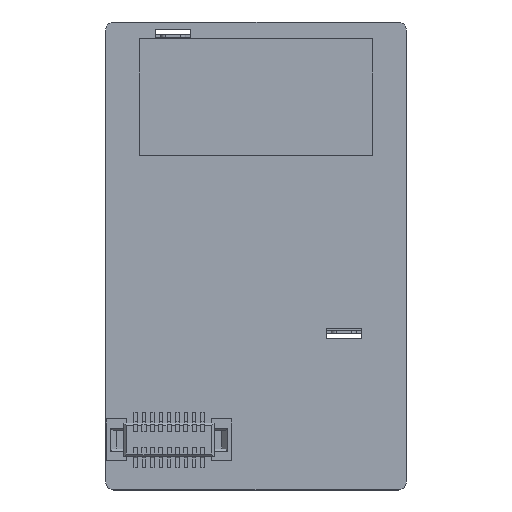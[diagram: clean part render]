
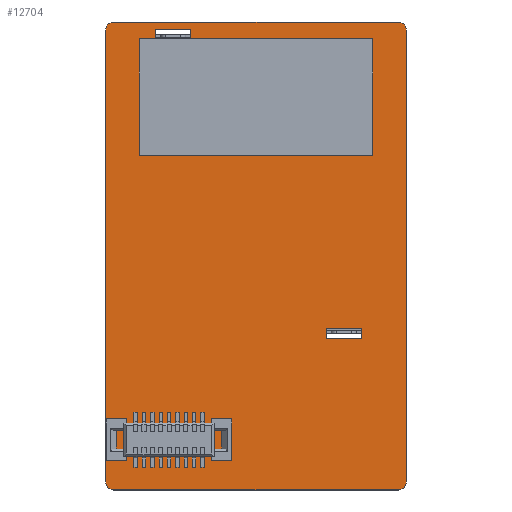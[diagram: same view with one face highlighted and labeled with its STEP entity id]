
A CAD part, top view. The second image highlights one B-rep face of the part: STEP entity #12704.
In plain terms, the highlighted planar face has unit normal (0, 0, 1) as drawn and (0, -1, 0) by its records, which use the part's own axes.
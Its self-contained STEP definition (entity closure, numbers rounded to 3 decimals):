
#12397=CARTESIAN_POINT('',(-8.5,0.,17.5));
#12398=DIRECTION('',(0.,-1.,0.));
#12399=DIRECTION('',(0.,0.,1.));
#12400=AXIS2_PLACEMENT_3D('',#12397,#12398,#12399);
#12402=DIRECTION('',(1.,0.,0.));
#12403=VECTOR('',#12402,17.);
#12404=CARTESIAN_POINT('',(-8.5,0.,18.));
#12405=LINE('',#12404,#12403);
#12406=CARTESIAN_POINT('',(8.5,0.,17.5));
#12407=DIRECTION('',(0.,-1.,0.));
#12408=DIRECTION('',(1.,0.,0.));
#12409=AXIS2_PLACEMENT_3D('',#12406,#12407,#12408);
#12411=DIRECTION('',(0.,0.,-1.));
#12412=VECTOR('',#12411,27.);
#12413=CARTESIAN_POINT('',(9.,0.,17.5));
#12414=LINE('',#12413,#12412);
#12415=CARTESIAN_POINT('',(8.5,0.,-9.5));
#12416=DIRECTION('',(0.,-1.,0.));
#12417=DIRECTION('',(0.,0.,-1.));
#12418=AXIS2_PLACEMENT_3D('',#12415,#12416,#12417);
#12420=DIRECTION('',(-1.,0.,0.));
#12421=VECTOR('',#12420,17.);
#12422=CARTESIAN_POINT('',(8.5,0.,-10.));
#12423=LINE('',#12422,#12421);
#12424=CARTESIAN_POINT('',(-8.5,0.,-9.5));
#12425=DIRECTION('',(0.,-1.,0.));
#12426=DIRECTION('',(-1.,0.,0.));
#12427=AXIS2_PLACEMENT_3D('',#12424,#12425,#12426);
#12429=DIRECTION('',(0.,0.,1.));
#12430=VECTOR('',#12429,27.);
#12431=CARTESIAN_POINT('',(-9.,0.,-9.5));
#12432=LINE('',#12431,#12430);
#12433=DIRECTION('',(-1.,0.,0.));
#12434=VECTOR('',#12433,2.1);
#12435=CARTESIAN_POINT('',(-3.9,0.,16.95));
#12436=LINE('',#12435,#12434);
#12437=DIRECTION('',(0.,0.,-1.));
#12438=VECTOR('',#12437,0.6);
#12439=CARTESIAN_POINT('',(-3.9,0.,17.55));
#12440=LINE('',#12439,#12438);
#12441=DIRECTION('',(1.,0.,0.));
#12442=VECTOR('',#12441,2.1);
#12443=CARTESIAN_POINT('',(-6.,0.,17.55));
#12444=LINE('',#12443,#12442);
#12445=DIRECTION('',(0.,0.,1.));
#12446=VECTOR('',#12445,0.6);
#12447=CARTESIAN_POINT('',(-6.,0.,16.95));
#12448=LINE('',#12447,#12446);
#12449=DIRECTION('',(0.,0.,-1.));
#12450=VECTOR('',#12449,0.6);
#12451=CARTESIAN_POINT('',(6.3,0.,-0.35));
#12452=LINE('',#12451,#12450);
#12453=DIRECTION('',(1.,0.,0.));
#12454=VECTOR('',#12453,2.1);
#12455=CARTESIAN_POINT('',(4.2,0.,-0.35));
#12456=LINE('',#12455,#12454);
#12457=DIRECTION('',(0.,0.,1.));
#12458=VECTOR('',#12457,0.6);
#12459=CARTESIAN_POINT('',(4.2,0.,-0.95));
#12460=LINE('',#12459,#12458);
#12461=DIRECTION('',(-1.,0.,0.));
#12462=VECTOR('',#12461,2.1);
#12463=CARTESIAN_POINT('',(6.3,0.,-0.95));
#12464=LINE('',#12463,#12462);
#12597=CARTESIAN_POINT('',(-8.5,0.,18.));
#12598=CARTESIAN_POINT('',(-9.,0.,17.5));
#12599=VERTEX_POINT('',#12597);
#12600=VERTEX_POINT('',#12598);
#12605=CARTESIAN_POINT('',(9.,0.,17.5));
#12606=CARTESIAN_POINT('',(8.5,0.,18.));
#12607=VERTEX_POINT('',#12605);
#12608=VERTEX_POINT('',#12606);
#12613=CARTESIAN_POINT('',(8.5,0.,-10.));
#12614=CARTESIAN_POINT('',(9.,0.,-9.5));
#12615=VERTEX_POINT('',#12613);
#12616=VERTEX_POINT('',#12614);
#12621=CARTESIAN_POINT('',(-9.,0.,-9.5));
#12622=CARTESIAN_POINT('',(-8.5,0.,-10.));
#12623=VERTEX_POINT('',#12621);
#12624=VERTEX_POINT('',#12622);
#12629=CARTESIAN_POINT('',(-3.9,0.,16.95));
#12630=CARTESIAN_POINT('',(-6.,0.,16.95));
#12631=VERTEX_POINT('',#12629);
#12632=VERTEX_POINT('',#12630);
#12633=CARTESIAN_POINT('',(-6.,0.,17.55));
#12634=VERTEX_POINT('',#12633);
#12635=CARTESIAN_POINT('',(-3.9,0.,17.55));
#12636=VERTEX_POINT('',#12635);
#12637=CARTESIAN_POINT('',(6.3,0.,-0.35));
#12638=CARTESIAN_POINT('',(6.3,0.,-0.95));
#12639=VERTEX_POINT('',#12637);
#12640=VERTEX_POINT('',#12638);
#12641=CARTESIAN_POINT('',(4.2,0.,-0.95));
#12642=VERTEX_POINT('',#12641);
#12643=CARTESIAN_POINT('',(4.2,0.,-0.35));
#12644=VERTEX_POINT('',#12643);
#12661=CARTESIAN_POINT('',(0.,0.,0.));
#12662=DIRECTION('',(0.,1.,0.));
#12663=DIRECTION('',(1.,0.,0.));
#12664=AXIS2_PLACEMENT_3D('',#12661,#12662,#12663);
#12665=PLANE('',#12664);
#12667=ORIENTED_EDGE('',*,*,#12666,.F.);
#12669=ORIENTED_EDGE('',*,*,#12668,.T.);
#12671=ORIENTED_EDGE('',*,*,#12670,.F.);
#12673=ORIENTED_EDGE('',*,*,#12672,.T.);
#12675=ORIENTED_EDGE('',*,*,#12674,.F.);
#12677=ORIENTED_EDGE('',*,*,#12676,.T.);
#12679=ORIENTED_EDGE('',*,*,#12678,.F.);
#12681=ORIENTED_EDGE('',*,*,#12680,.T.);
#12682=EDGE_LOOP('',(#12667,#12669,#12671,#12673,#12675,#12677,#12679,#12681));
#12683=FACE_OUTER_BOUND('',#12682,.F.);
#12685=ORIENTED_EDGE('',*,*,#12684,.F.);
#12687=ORIENTED_EDGE('',*,*,#12686,.F.);
#12689=ORIENTED_EDGE('',*,*,#12688,.F.);
#12691=ORIENTED_EDGE('',*,*,#12690,.F.);
#12692=EDGE_LOOP('',(#12685,#12687,#12689,#12691));
#12693=FACE_BOUND('',#12692,.F.);
#12695=ORIENTED_EDGE('',*,*,#12694,.F.);
#12697=ORIENTED_EDGE('',*,*,#12696,.F.);
#12699=ORIENTED_EDGE('',*,*,#12698,.F.);
#12701=ORIENTED_EDGE('',*,*,#12700,.F.);
#12702=EDGE_LOOP('',(#12695,#12697,#12699,#12701));
#12703=FACE_BOUND('',#12702,.F.);
#12704=ADVANCED_FACE('',(#12683,#12693,#12703),#12665,.F.);
#12401=CIRCLE('',#12400,0.5);
#12410=CIRCLE('',#12409,0.5);
#12419=CIRCLE('',#12418,0.5);
#12428=CIRCLE('',#12427,0.5);
#12666=EDGE_CURVE('',#12599,#12600,#12401,.T.);
#12668=EDGE_CURVE('',#12599,#12608,#12405,.T.);
#12670=EDGE_CURVE('',#12607,#12608,#12410,.T.);
#12672=EDGE_CURVE('',#12607,#12616,#12414,.T.);
#12674=EDGE_CURVE('',#12615,#12616,#12419,.T.);
#12676=EDGE_CURVE('',#12615,#12624,#12423,.T.);
#12678=EDGE_CURVE('',#12623,#12624,#12428,.T.);
#12680=EDGE_CURVE('',#12623,#12600,#12432,.T.);
#12684=EDGE_CURVE('',#12631,#12632,#12436,.T.);
#12686=EDGE_CURVE('',#12636,#12631,#12440,.T.);
#12688=EDGE_CURVE('',#12634,#12636,#12444,.T.);
#12690=EDGE_CURVE('',#12632,#12634,#12448,.T.);
#12694=EDGE_CURVE('',#12639,#12640,#12452,.T.);
#12696=EDGE_CURVE('',#12644,#12639,#12456,.T.);
#12698=EDGE_CURVE('',#12642,#12644,#12460,.T.);
#12700=EDGE_CURVE('',#12640,#12642,#12464,.T.);
